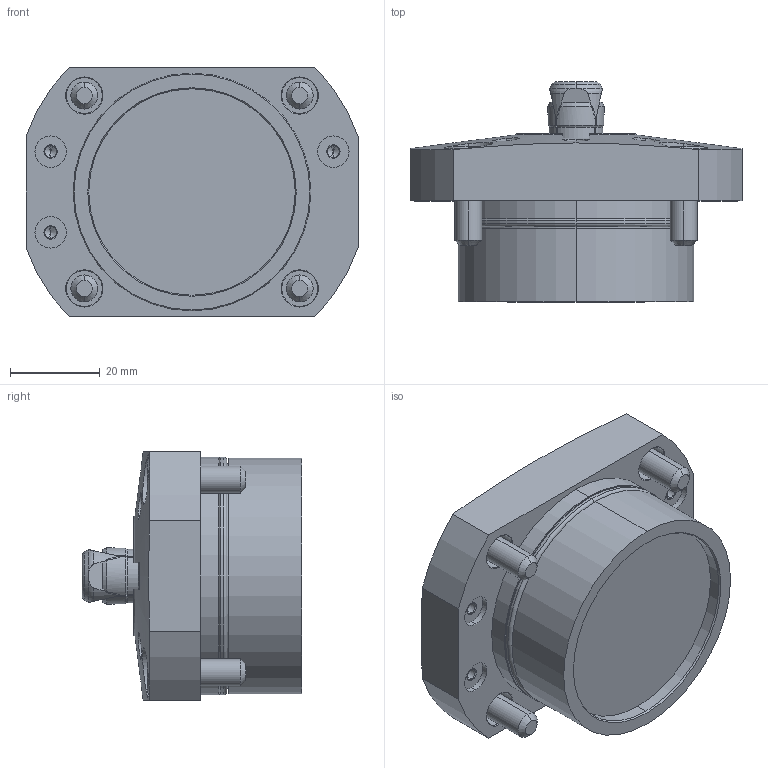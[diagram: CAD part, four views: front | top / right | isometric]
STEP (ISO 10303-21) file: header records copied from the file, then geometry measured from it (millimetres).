
FILE_DESCRIPTION (( 'STEP AP203' ), '1' );
FILE_NAME ('SFH3130_N.STEP', '2010-11-03T23:22:19', ( ' ' ), ( ' ' ), 'SwSTEP 2.0', 'SolidWorks 2010', '' );
FILE_SCHEMA (( 'CONFIG_CONTROL_DESIGN' ));
Length unit declared in the file: millimetre
Products named in the file (7): 6妏寠晅无倌_M6_16; SFH3_钾堇轤O剌皋晅; 冇13_郫霓; 6妏寠晅无倌_M3_10; φ13_ｽﾘｰﾌﾞ-N; SFH3130_N; SFH3130-N_套菁轤礁诎蔬晅
Assembly tree (14 placements, depth 2):
  SFH3130_N
    6妏寠晅无倌_M6_16  x4
    6妏寠晅无倌_M3_10  x6
    φ13_ｽﾘｰﾌﾞ-N
    SFH3_钾堇轤O剌皋晅
    SFH3130-N_套菁轤礁诎蔬晅
    冇13_郫霓
Bounding box: 74 x 49 x 55.5 mm (x, y, z)
Volume: 95277.5 mm3; surface area: 29407.6 mm2
Topology: 18 solids, 18 shells, 552 faces, 1115 edges, 610 vertices
Faces by surface type: plane 219, cone 180, cylinder 134, torus 19
Entity records: 10243 total; most frequent: CARTESIAN_POINT 2522, DIRECTION 1502, ORIENTED_EDGE 1342, EDGE_CURVE 671, AXIS2_PLACEMENT_3D 628, VERTEX_POINT 410, EDGE_LOOP 349, CIRCLE 307
